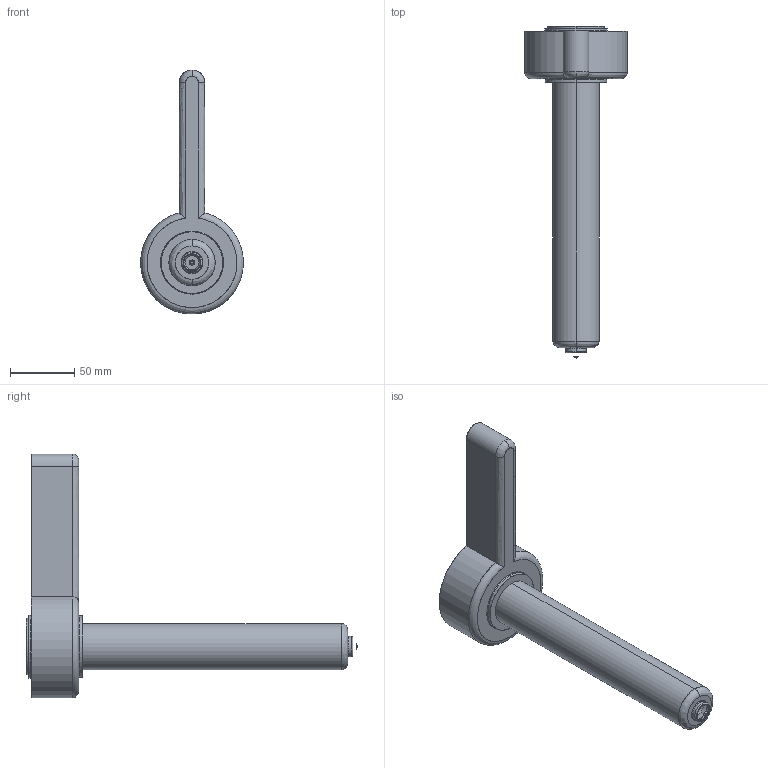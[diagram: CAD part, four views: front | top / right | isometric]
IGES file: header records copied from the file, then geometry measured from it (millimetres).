
Start section: SolidWorks IGES file using analytic representation for surfaces
Global section: file name: C:\Documents and Settings\ws-20\Desktop\TEM\Sede UGEP5505-S-A C-214 L-251 Ød-2.0.IGS; native system: SolidWorks 2012; preprocessor: SolidWorks 2012; author: ws-20; date: 120427.090408; units: millimetre
Bounding box: 79.95 x 258.54 x 190 mm (x, y, z)
Surface area: 54928 mm2 (no closed solid volume)
Topology: 0 solids, 0 shells, 44 faces, 952 edges, 952 vertices
Faces by surface type: revolution 27, bspline 17
